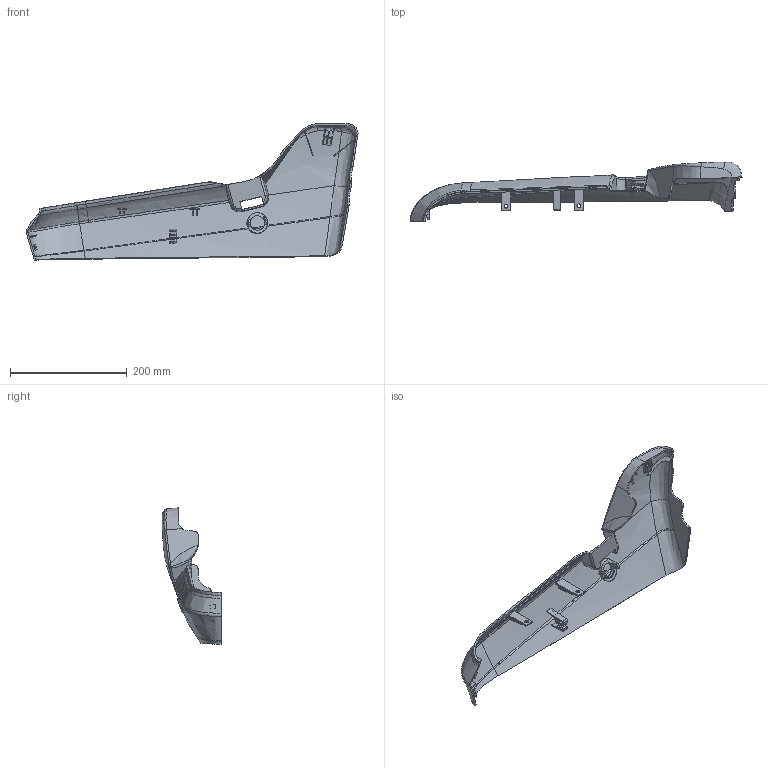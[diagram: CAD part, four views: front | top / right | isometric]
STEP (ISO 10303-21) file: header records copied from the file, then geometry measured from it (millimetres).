
FILE_DESCRIPTION(('CATIA V5 STEP Exchange','CAx-IF Rec.Pracs.--- Model Styling and Organization---1.4--- 2014-01-23'),'2;1');
FILE_NAME('C:\Users\luhaitao\Desktop\塑料件平台项目\塑料件样件清单\04.stp','2025-04-28T01:05:37+00:00',('none'),('none'),'CATIA Version 5-6 Release 2017','CATIA V5 STEP AP214','none');
FILE_SCHEMA(('AUTOMOTIVE_DESIGN { 1 0 10303 214 1 1 1 1 }'));
Products named in the file (1): 04
Bounding box: 569.42 x 102.09 x 233.71 mm (x, y, z)
Volume: 2877.2 mm3; surface area: 216329.4 mm2
Topology: 1 solids, 2 shells, 467 faces, 1519 edges, 1038 vertices
Faces by surface type: bspline 263, plane 125, cylinder 52, sphere 17, extrusion 10
Entity records: 62156 total; most frequent: CARTESIAN_POINT 52007, ORIENTED_EDGE 2999, EDGE_CURVE 1507, B_SPLINE_CURVE_WITH_KNOTS 1159, VERTEX_POINT 1038, DIRECTION 680, EDGE_LOOP 478, ADVANCED_FACE 467
